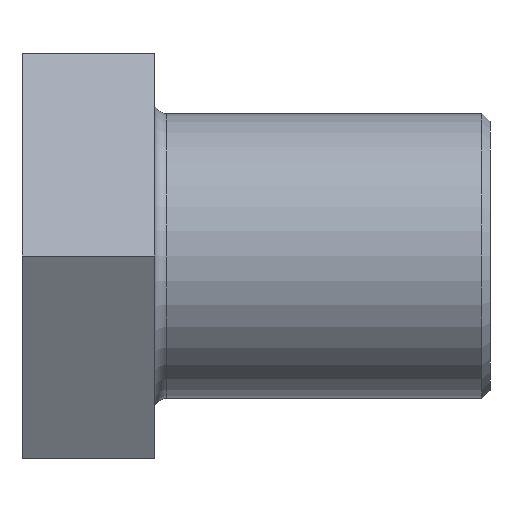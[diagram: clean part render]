
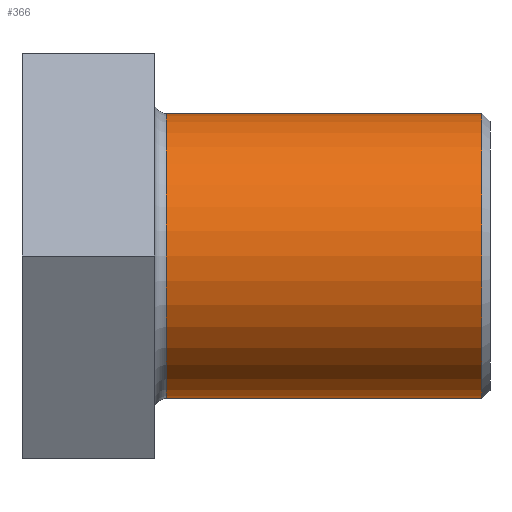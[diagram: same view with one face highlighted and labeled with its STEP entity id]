
A CAD part, left-side view. The second image highlights one B-rep face of the part: STEP entity #366.
In plain terms, the highlighted cylindrical face has radius 3.5 mm (diameter 7 mm), a partial arc.
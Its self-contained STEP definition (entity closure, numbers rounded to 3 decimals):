
#17 = VERTEX_POINT ( 'NONE', #175 ) ;
#26 = FACE_OUTER_BOUND ( 'NONE', #628, .T. ) ;
#41 = CARTESIAN_POINT ( 'NONE',  ( 0., -3.55, 0. ) ) ;
#65 = CARTESIAN_POINT ( 'NONE',  ( 0., -11.3, 3.5 ) ) ;
#94 = AXIS2_PLACEMENT_3D ( 'NONE', #102, #140, #434 ) ;
#101 = DIRECTION ( 'NONE',  ( 0., -1., 0. ) ) ;
#102 = CARTESIAN_POINT ( 'NONE',  ( 0., -982.415, 0. ) ) ;
#136 = CYLINDRICAL_SURFACE ( 'NONE', #94, 3.5 ) ;
#140 = DIRECTION ( 'NONE',  ( 0., -1., 0. ) ) ;
#141 = DIRECTION ( 'NONE',  ( 0., -1., 0. ) ) ;
#152 = ORIENTED_EDGE ( 'NONE', *, *, #616, .T. ) ;
#163 = CIRCLE ( 'NONE', #347, 3.5 ) ;
#174 = ORIENTED_EDGE ( 'NONE', *, *, #318, .T. ) ;
#175 = CARTESIAN_POINT ( 'NONE',  ( 0., -3.55, 3.5 ) ) ;
#176 = CARTESIAN_POINT ( 'NONE',  ( 0., -11.3, 0. ) ) ;
#192 = CARTESIAN_POINT ( 'NONE',  ( 0., -3.55, -3.5 ) ) ;
#197 = LINE ( 'NONE', #611, #480 ) ;
#233 = VERTEX_POINT ( 'NONE', #65 ) ;
#240 = DIRECTION ( 'NONE',  ( 0., 0., 1. ) ) ;
#299 = VERTEX_POINT ( 'NONE', #192 ) ;
#301 = CARTESIAN_POINT ( 'NONE',  ( 0., -11.3, -3.5 ) ) ;
#302 = CIRCLE ( 'NONE', #563, 3.5 ) ;
#315 = DIRECTION ( 'NONE',  ( 0., 1., 0. ) ) ;
#318 = EDGE_CURVE ( 'NONE', #17, #299, #302, .T. ) ;
#341 = CARTESIAN_POINT ( 'NONE',  ( 0., -982.415, 3.5 ) ) ;
#347 = AXIS2_PLACEMENT_3D ( 'NONE', #176, #315, #360 ) ;
#360 = DIRECTION ( 'NONE',  ( 0., 0., 1. ) ) ;
#361 = EDGE_CURVE ( 'NONE', #17, #233, #507, .T. ) ;
#366 = ADVANCED_FACE ( 'NONE', ( #26 ), #136, .T. ) ;
#415 = DIRECTION ( 'NONE',  ( 0., -1., 0. ) ) ;
#434 = DIRECTION ( 'NONE',  ( 0., 0., -1. ) ) ;
#453 = ORIENTED_EDGE ( 'NONE', *, *, #485, .T. ) ;
#480 = VECTOR ( 'NONE', #415, 1000. ) ;
#481 = VERTEX_POINT ( 'NONE', #301 ) ;
#485 = EDGE_CURVE ( 'NONE', #481, #233, #163, .T. ) ;
#507 = LINE ( 'NONE', #341, #543 ) ;
#543 = VECTOR ( 'NONE', #101, 1000. ) ;
#563 = AXIS2_PLACEMENT_3D ( 'NONE', #41, #141, #240 ) ;
#611 = CARTESIAN_POINT ( 'NONE',  ( 0., -982.415, -3.5 ) ) ;
#616 = EDGE_CURVE ( 'NONE', #299, #481, #197, .T. ) ;
#621 = ORIENTED_EDGE ( 'NONE', *, *, #361, .F. ) ;
#628 = EDGE_LOOP ( 'NONE', ( #621, #174, #152, #453 ) ) ;
